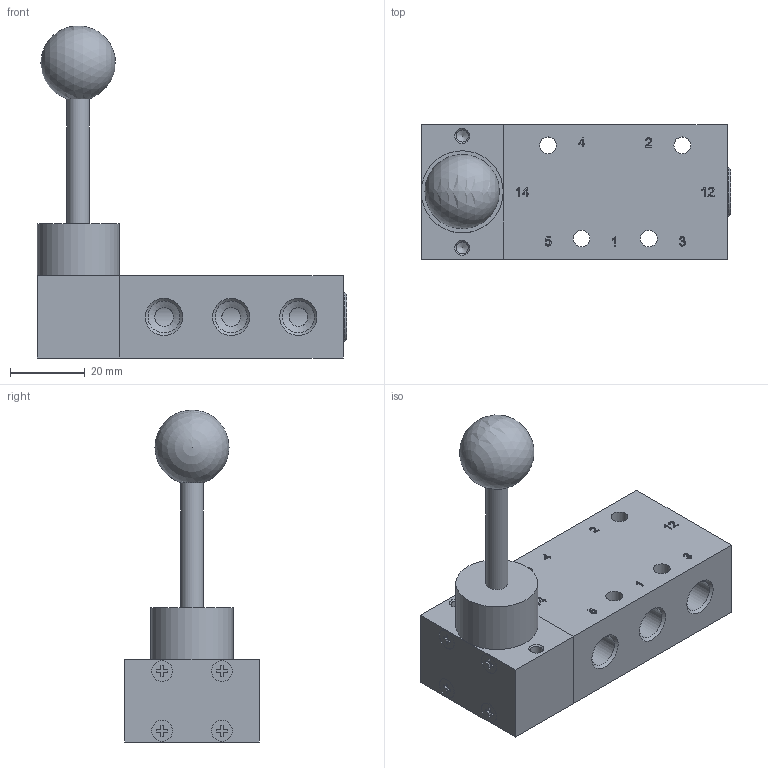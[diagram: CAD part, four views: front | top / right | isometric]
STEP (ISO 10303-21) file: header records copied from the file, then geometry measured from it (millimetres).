
FILE_DESCRIPTION(/* description */ ('Unknown','CAx-IF Rec.Pracs.---Representation and Presentation of Product Manufacturing Information (PMI)---4.0---2014-10-13','CAx-IF Rec.Pracs.---3D Tessellated Geometry---0.4---2014-09-14','2;1'),/* implementation_level */ '2;1');
FILE_NAME(/* name */ 'HV 531 501',/* time_stamp */ '2020-07-03T14:13:10+02:00',/* author */ ('Unknown'),/* organization */ ('Unknown'),/* preprocessor_version */ 'ST-DEVELOPER v16.7',/* originating_system */ 'DEX',/* authorisation */ $);
FILE_SCHEMA (('AP242_MANAGED_MODEL_BASED_3D_ENGINEERING_MIM_LF { 1 0 10303 442 20130219 1 4 }'));
Length unit declared in the file: millimetre
Products named in the file (2): HV 531 501
Assembly tree (1 placements, depth 2):
  HV 531 501
    HV 531 501
Bounding box: 83 x 36 x 88.97 mm (x, y, z)
Volume: 62510.1 mm3; surface area: 21763.3 mm2
Topology: 3 solids, 7 shells, 387 faces, 1018 edges, 675 vertices
Faces by surface type: plane 224, bspline 71, cylinder 59, cone 31, sphere 1, torus 1
Full cylindrical faces by diameter (mm): 1.6 x1, 2.459 x8, 3.242 x4, 4.5 x4, 5 x5, 5.6 x4, 6 x1, 8.566 x10, 9 x1, 10 x1, 12 x2, 12.06 x1, 13 x1, 22 x1
Entity records: 14699 total; most frequent: CARTESIAN_POINT 3422, ORIENTED_EDGE 1786, DIRECTION 1499, EDGE_CURVE 893, VERTEX_POINT 637, LINE 615, VECTOR 615, FACE_BOUND 526
